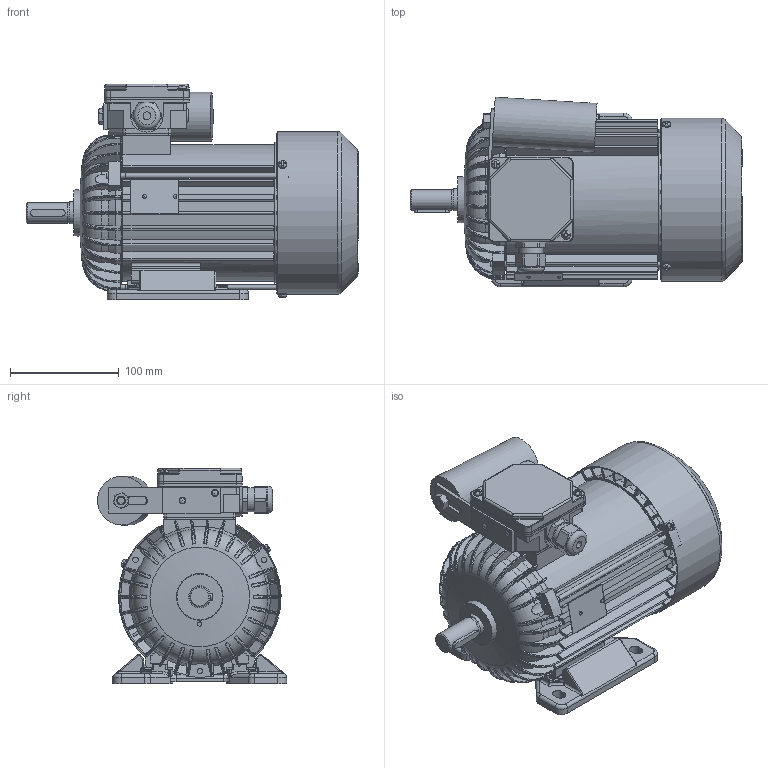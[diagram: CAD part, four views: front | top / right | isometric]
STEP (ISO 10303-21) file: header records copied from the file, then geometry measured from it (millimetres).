
FILE_DESCRIPTION( ( 'Unknown' ), '1' );
FILE_NAME( 'G:/Poczta Tk-1/STP/w.m.80/SEh80/SEh80-.C.stp', 'Unknown', ( 'K. Szlosek' ), ( 'BESEL S.A.' ), 'PSStep 17.0.49', 'Unknown', ' ' );
FILE_SCHEMA( ( 'AUTOMOTIVE_DESIGN { 1 0 10303 214 1 1 1 1 }' ) );
Length unit declared in the file: millimetre
Products named in the file (34): Assem1; K1-1257 Kadłub S(E,M)h80-C i D; K3-7039 wał standard Sh80-C; K4-2820 Uszczelka nr 2 Sh71,80; Wkręt samogwintujący M4x16; Wkręt samogwintujący M4x10; K2-1715 Przewietrznik; Wpust A6x6x32; K2-1131 Podstawa skrzynki zaciskowej jednofazowa; K4-2999 Uchwyt kondensatora; K4-0898 Tulejka uszczelniająca; nakrętka M8; Nit 4x12 po skróceniu; Nitokołek A 2x6; K2-2007 Tarcza łożyskowa N S(E,M)h80-; Kondensator zb 25-31,5uF Comar; K4-4489 Osłona przewietrznika Sh80,90-A,C; K2-0860 Pokrywka skrzynki zaciskowej; K4-2320 Uszczelka nr 1 Sh71,80; K1-0437 Łapa Sh80-.. ; K2-2027 Tarcza łożyskowa P S(E,M)h80-.A,C; Łożysko 6204; Śruba ściągająca E_M5x168; Tabliczka znamionowa 32x44; Dławnica M20x1,5
Assembly tree (50 placements, depth 2):
  Assem1
    K1-1257 Kadłub S(E,M)h80-C i D
    K3-7039 wał standard Sh80-C
    K4-2820 Uszczelka nr 2 Sh71,80
    Wkręt samogwintujący M4x16  x2
    Wkręt samogwintujący M4x10  x3
    K2-1715 Przewietrznik
    Wpust A6x6x32
    K2-1131 Podstawa skrzynki zaciskowej jednofazowa
    K4-2999 Uchwyt kondensatora
    K4-0898 Tulejka uszczelniająca
    nakrętka M8
    Nit 4x12 po skróceniu  x2
    Nitokołek A 2x6  x2
    K2-2007 Tarcza łożyskowa N S(E,M)h80-
    Kondensator zb 25-31,5uF Comar
    K4-4489 Osłona przewietrznika Sh80,90-A,C
    K2-0860 Pokrywka skrzynki zaciskowej
    K4-2320 Uszczelka nr 1 Sh71,80
    K1-0437 Łapa Sh80-.. 
    K2-2027 Tarcza łożyskowa P S(E,M)h80-.A,C
    Łożysko 6204  x2
    Łożysko 6204  x2
    Łożysko 6204  x2
    Łożysko 6204  x2
    Łożysko 6204  x2
    Łożysko 6204  x2
    Łożysko 6204  x2
    Łożysko 6204  x2
    Łożysko 6204  x2
    Łożysko 6204  x2
    Śruba ściągająca E_M5x168  x3
    Tabliczka znamionowa 32x44
    Dławnica M20x1,5
Bounding box: 305.8 x 174.3 x 198.5 mm (x, y, z)
Volume: 1162870 mm3; surface area: 626121 mm2
Topology: 50 solids, 66 shells, 3036 faces, 8325 edges, 5351 vertices
Faces by surface type: plane 1419, cylinder 982, bspline 209, torus 209, cone 179, sphere 38
Full cylindrical faces by diameter (mm): 2 x2, 2.4 x2, 3 x2, 3.7 x11, 4 x8, 4.2 x3, 4.3 x2, 4.5 x3, 4.6 x3, 4.8 x4, 5 x7, 5.5 x3, 6 x2, 6.5 x5, 6.647 x1, 7 x1, 8 x10, 10 x2, 18.376 x1, 18.38 x1, 18.6 x1, 19 x1, 19.3 x1, 19.5 x2, 19.9 x1, 20 x5, 20.3 x2, 20.4 x4, 22.3 x1, 25 x1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
Entity records: 164257 total; most frequent: CARTESIAN_POINT 71663, ORIENTED_EDGE 15048, DIRECTION 14200, EDGE_CURVE 7524, AXIS2_PLACEMENT_3D 5260, VERTEX_POINT 5008, LINE 3680, VECTOR 3680
